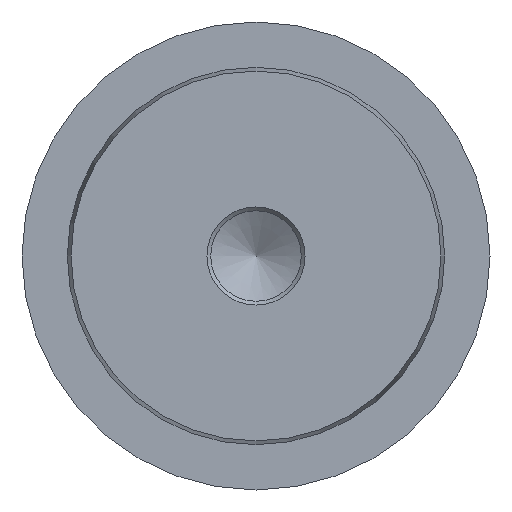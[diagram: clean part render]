
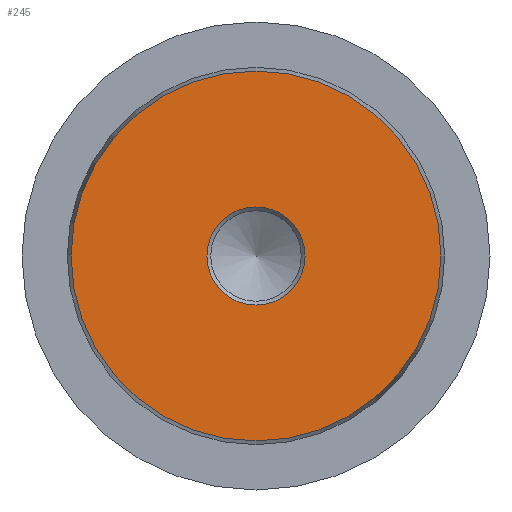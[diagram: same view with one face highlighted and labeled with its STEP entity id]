
A CAD part, left-side view. The second image highlights one B-rep face of the part: STEP entity #245.
In plain terms, the highlighted planar face has unit normal (-1, 0, 0).
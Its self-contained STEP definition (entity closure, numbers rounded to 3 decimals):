
#14=FACE_BOUND('',#81,.T.);
#24=PLANE('',#290);
#63=FACE_OUTER_BOUND('',#80,.T.);
#80=EDGE_LOOP('',(#182));
#81=EDGE_LOOP('',(#183));
#101=CIRCLE('',#289,6.5);
#102=CIRCLE('',#291,24.5);
#119=VERTEX_POINT('',#419);
#120=VERTEX_POINT('',#423);
#141=EDGE_CURVE('',#119,#119,#101,.T.);
#142=EDGE_CURVE('',#120,#120,#102,.T.);
#182=ORIENTED_EDGE('',*,*,#142,.F.);
#183=ORIENTED_EDGE('',*,*,#141,.T.);
#245=ADVANCED_FACE('',(#63,#14),#24,.T.);
#289=AXIS2_PLACEMENT_3D('',#421,#343,#344);
#290=AXIS2_PLACEMENT_3D('',#422,#345,#346);
#291=AXIS2_PLACEMENT_3D('',#424,#347,#348);
#343=DIRECTION('center_axis',(1.,0.,0.));
#344=DIRECTION('ref_axis',(0.,0.,-1.));
#345=DIRECTION('center_axis',(-1.,0.,0.));
#346=DIRECTION('ref_axis',(0.,0.,1.));
#347=DIRECTION('center_axis',(1.,0.,0.));
#348=DIRECTION('ref_axis',(0.,0.,-1.));
#419=CARTESIAN_POINT('',(0.,-6.5,0.));
#421=CARTESIAN_POINT('Origin',(0.,0.,0.));
#422=CARTESIAN_POINT('Origin',(0.,24.5,0.));
#423=CARTESIAN_POINT('',(0.,-24.5,0.));
#424=CARTESIAN_POINT('Origin',(0.,0.,0.));
